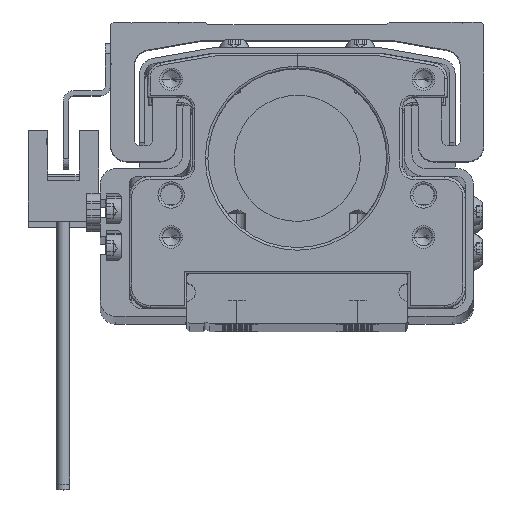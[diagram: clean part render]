
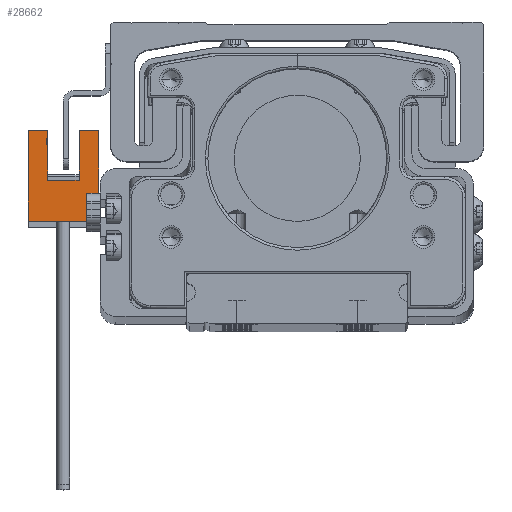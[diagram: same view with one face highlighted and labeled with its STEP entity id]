
A CAD part, top view. The second image highlights one B-rep face of the part: STEP entity #28662.
In plain terms, the highlighted planar face has unit normal (0, 0, 1) as drawn and (-1, 0, 0) by its records, which use the part's own axes.
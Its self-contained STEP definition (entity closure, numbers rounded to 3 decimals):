
#1744 = VECTOR ( 'NONE', #12130, 1000. ) ;
#3105 = ORIENTED_EDGE ( 'NONE', *, *, #48121, .T. ) ;
#4896 = DIRECTION ( 'NONE',  ( 0., 0., 1. ) ) ;
#5235 = CARTESIAN_POINT ( 'NONE',  ( -3., -15.2, -3.7 ) ) ;
#5259 = VERTEX_POINT ( 'NONE', #50831 ) ;
#5849 = ORIENTED_EDGE ( 'NONE', *, *, #40279, .T. ) ;
#8186 = VERTEX_POINT ( 'NONE', #49597 ) ;
#8404 = VERTEX_POINT ( 'NONE', #45077 ) ;
#8726 = VECTOR ( 'NONE', #4896, 1000. ) ;
#8854 = ORIENTED_EDGE ( 'NONE', *, *, #35783, .T. ) ;
#11117 = VECTOR ( 'NONE', #32996, 1000. ) ;
#12130 = DIRECTION ( 'NONE',  ( 0., 1., 0. ) ) ;
#12235 = CARTESIAN_POINT ( 'NONE',  ( -3., -16.1, 7.5 ) ) ;
#12247 = LINE ( 'NONE', #47741, #54870 ) ;
#12487 = CARTESIAN_POINT ( 'NONE',  ( -3., -15.2, -3.7 ) ) ;
#13588 = ORIENTED_EDGE ( 'NONE', *, *, #45057, .T. ) ;
#14805 = VERTEX_POINT ( 'NONE', #12487 ) ;
#14962 = FACE_OUTER_BOUND ( 'NONE', #37898, .T. ) ;
#15127 = ORIENTED_EDGE ( 'NONE', *, *, #18407, .T. ) ;
#15798 = VECTOR ( 'NONE', #26943, 1000. ) ;
#16986 = ORIENTED_EDGE ( 'NONE', *, *, #50261, .T. ) ;
#16994 = DIRECTION ( 'NONE',  ( 0., 1., 0. ) ) ;
#18407 = EDGE_CURVE ( 'NONE', #5259, #31178, #36193, .T. ) ;
#18419 = LINE ( 'NONE', #35042, #31324 ) ;
#18929 = CARTESIAN_POINT ( 'NONE',  ( -3., 2., -3.7 ) ) ;
#19476 = VECTOR ( 'NONE', #25440, 1000. ) ;
#20305 = LINE ( 'NONE', #5235, #8726 ) ;
#21714 = CARTESIAN_POINT ( 'NONE',  ( -3., -9.9, 7.5 ) ) ;
#22729 = EDGE_CURVE ( 'NONE', #14805, #8186, #20305, .T. ) ;
#23028 = VERTEX_POINT ( 'NONE', #48900 ) ;
#23261 = ORIENTED_EDGE ( 'NONE', *, *, #22729, .T. ) ;
#23349 = VECTOR ( 'NONE', #52131, 1000. ) ;
#23995 = LINE ( 'NONE', #45640, #11117 ) ;
#24883 = VERTEX_POINT ( 'NONE', #18929 ) ;
#25026 = LINE ( 'NONE', #12235, #1744 ) ;
#25440 = DIRECTION ( 'NONE',  ( 0., 0., -1. ) ) ;
#25648 = CARTESIAN_POINT ( 'NONE',  ( -3., 2., 9.7 ) ) ;
#26943 = DIRECTION ( 'NONE',  ( 0., 0., 1. ) ) ;
#27249 = LINE ( 'NONE', #27333, #15798 ) ;
#27333 = CARTESIAN_POINT ( 'NONE',  ( -3., -9.9, -3.7 ) ) ;
#28000 = VERTEX_POINT ( 'NONE', #48408 ) ;
#28662 = ADVANCED_FACE ( 'NONE', ( #14962 ), #49840, .T. ) ;
#31178 = VERTEX_POINT ( 'NONE', #42963 ) ;
#31324 = VECTOR ( 'NONE', #34909, 1000. ) ;
#32996 = DIRECTION ( 'NONE',  ( 0., 0., -1. ) ) ;
#33313 = VERTEX_POINT ( 'NONE', #33540 ) ;
#33540 = CARTESIAN_POINT ( 'NONE',  ( -3., 2., 6. ) ) ;
#33756 = ORIENTED_EDGE ( 'NONE', *, *, #34789, .T. ) ;
#34789 = EDGE_CURVE ( 'NONE', #24883, #14805, #12247, .T. ) ;
#34909 = DIRECTION ( 'NONE',  ( 0., 0., -1. ) ) ;
#35042 = CARTESIAN_POINT ( 'NONE',  ( -3., -7.4, -3.7 ) ) ;
#35783 = EDGE_CURVE ( 'NONE', #8186, #36544, #25026, .T. ) ;
#36193 = LINE ( 'NONE', #53989, #23349 ) ;
#36544 = VERTEX_POINT ( 'NONE', #21714 ) ;
#37898 = EDGE_LOOP ( 'NONE', ( #23261, #8854, #5849, #3105, #16986, #39737, #13588, #15127, #49509, #33756 ) ) ;
#38525 = LINE ( 'NONE', #25648, #49691 ) ;
#39737 = ORIENTED_EDGE ( 'NONE', *, *, #44768, .T. ) ;
#40279 = EDGE_CURVE ( 'NONE', #36544, #28000, #27249, .T. ) ;
#42075 = VECTOR ( 'NONE', #43639, 1000. ) ;
#42387 = LINE ( 'NONE', #50925, #19476 ) ;
#42963 = CARTESIAN_POINT ( 'NONE',  ( -3., 2., 0. ) ) ;
#43339 = LINE ( 'NONE', #43964, #42075 ) ;
#43639 = DIRECTION ( 'NONE',  ( 0., -1., 0. ) ) ;
#43964 = CARTESIAN_POINT ( 'NONE',  ( -3., 2., 6. ) ) ;
#44768 = EDGE_CURVE ( 'NONE', #33313, #8404, #43339, .T. ) ;
#45057 = EDGE_CURVE ( 'NONE', #8404, #5259, #18419, .T. ) ;
#45077 = CARTESIAN_POINT ( 'NONE',  ( -3., -7.4, 6. ) ) ;
#45640 = CARTESIAN_POINT ( 'NONE',  ( -3., 2., -3.7 ) ) ;
#47683 = DIRECTION ( 'NONE',  ( 0., -1., 0. ) ) ;
#47741 = CARTESIAN_POINT ( 'NONE',  ( -3., 2., -3.7 ) ) ;
#48121 = EDGE_CURVE ( 'NONE', #28000, #23028, #38525, .T. ) ;
#48408 = CARTESIAN_POINT ( 'NONE',  ( -3., -9.9, 9.7 ) ) ;
#48900 = CARTESIAN_POINT ( 'NONE',  ( -3., 2., 9.7 ) ) ;
#49303 = DIRECTION ( 'NONE',  ( 0., 0., 1. ) ) ;
#49364 = DIRECTION ( 'NONE',  ( -1., 0., 0. ) ) ;
#49509 = ORIENTED_EDGE ( 'NONE', *, *, #52320, .T. ) ;
#49597 = CARTESIAN_POINT ( 'NONE',  ( -3., -15.2, 7.5 ) ) ;
#49677 = CARTESIAN_POINT ( 'NONE',  ( -3., 2., -3.7 ) ) ;
#49691 = VECTOR ( 'NONE', #16994, 1000. ) ;
#49840 = PLANE ( 'NONE',  #50731 ) ;
#50261 = EDGE_CURVE ( 'NONE', #23028, #33313, #42387, .T. ) ;
#50731 = AXIS2_PLACEMENT_3D ( 'NONE', #49677, #49364, #49303 ) ;
#50831 = CARTESIAN_POINT ( 'NONE',  ( -3., -7.4, 0. ) ) ;
#50925 = CARTESIAN_POINT ( 'NONE',  ( -3., 2., -3.7 ) ) ;
#52131 = DIRECTION ( 'NONE',  ( 0., 1., 0. ) ) ;
#52320 = EDGE_CURVE ( 'NONE', #31178, #24883, #23995, .T. ) ;
#53989 = CARTESIAN_POINT ( 'NONE',  ( -3., 2., 0. ) ) ;
#54870 = VECTOR ( 'NONE', #47683, 1000. ) ;
